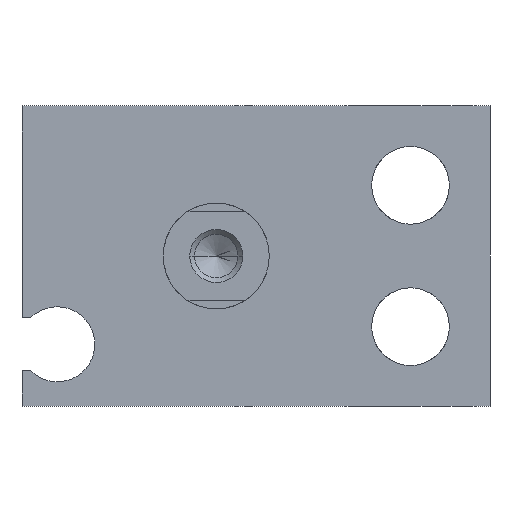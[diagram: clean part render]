
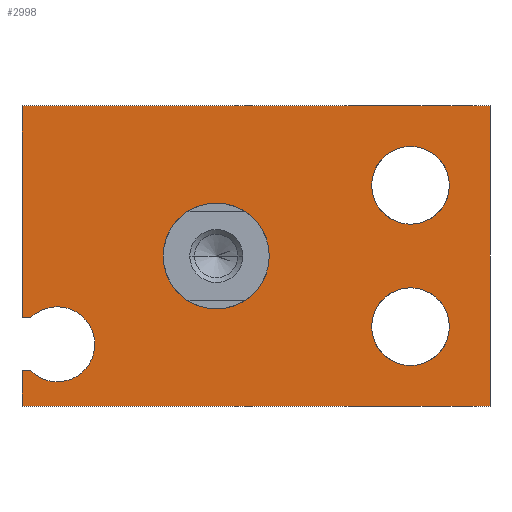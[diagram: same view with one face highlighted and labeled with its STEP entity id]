
A CAD part, left-side view. The second image highlights one B-rep face of the part: STEP entity #2998.
In plain terms, the highlighted planar face has unit normal (-1, 0, 0).
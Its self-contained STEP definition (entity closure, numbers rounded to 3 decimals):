
#64 = EDGE_CURVE ( 'NONE', #1457, #2333, #1753, .T. ) ;
#70 = DIRECTION ( 'NONE',  ( 0., 0., 1. ) ) ;
#78 = CARTESIAN_POINT ( 'NONE',  ( 0., 10.505, -6.5 ) ) ;
#116 = EDGE_CURVE ( 'NONE', #711, #2629, #1100, .T. ) ;
#127 = DIRECTION ( 'NONE',  ( -1., 0., 0. ) ) ;
#130 = DIRECTION ( 'NONE',  ( 0., 0., 1. ) ) ;
#134 = EDGE_LOOP ( 'NONE', ( #1428, #1081, #2905, #1048, #978, #2161, #2136, #2424, #1628, #2460 ) ) ;
#219 = LINE ( 'NONE', #2868, #1692 ) ;
#226 = EDGE_CURVE ( 'NONE', #734, #900, #593, .T. ) ;
#329 = VERTEX_POINT ( 'NONE', #1194 ) ;
#331 = VERTEX_POINT ( 'NONE', #672 ) ;
#339 = AXIS2_PLACEMENT_3D ( 'NONE', #962, #2977, #70 ) ;
#393 = DIRECTION ( 'NONE',  ( 0., -1., 0. ) ) ;
#395 = DIRECTION ( 'NONE',  ( 0., 0., 1. ) ) ;
#408 = EDGE_CURVE ( 'NONE', #1352, #329, #3015, .T. ) ;
#420 = CARTESIAN_POINT ( 'NONE',  ( 0., -15.5, -8.5 ) ) ;
#427 = DIRECTION ( 'NONE',  ( 0., 0., 1. ) ) ;
#460 = DIRECTION ( 'NONE',  ( 0., 0., 1. ) ) ;
#466 = DIRECTION ( 'NONE',  ( 0., 1., 0. ) ) ;
#544 = AXIS2_PLACEMENT_3D ( 'NONE', #2837, #667, #1629 ) ;
#546 = AXIS2_PLACEMENT_3D ( 'NONE', #1412, #2391, #1144 ) ;
#584 = DIRECTION ( 'NONE',  ( 0., 0., -1. ) ) ;
#593 = CIRCLE ( 'NONE', #1551, 2.125 ) ;
#595 = LINE ( 'NONE', #3054, #2652 ) ;
#599 = CARTESIAN_POINT ( 'NONE',  ( 0., -15.5, -8.5 ) ) ;
#665 = CARTESIAN_POINT ( 'NONE',  ( 0., 11., 8.5 ) ) ;
#667 = DIRECTION ( 'NONE',  ( -1., 0., 0. ) ) ;
#672 = CARTESIAN_POINT ( 'NONE',  ( 0., -11., 6.2 ) ) ;
#677 = EDGE_CURVE ( 'NONE', #331, #1529, #780, .T. ) ;
#692 = VECTOR ( 'NONE', #466, 1000. ) ;
#698 = DIRECTION ( 'NONE',  ( 0., -1., 0. ) ) ;
#711 = VERTEX_POINT ( 'NONE', #3041 ) ;
#734 = VERTEX_POINT ( 'NONE', #1079 ) ;
#751 = CARTESIAN_POINT ( 'NONE',  ( 0., 0., 3. ) ) ;
#780 = CIRCLE ( 'NONE', #1180, 2.2 ) ;
#807 = DIRECTION ( 'NONE',  ( 0., 0., -1. ) ) ;
#816 = CARTESIAN_POINT ( 'NONE',  ( 0., 11., -8.5 ) ) ;
#844 = VECTOR ( 'NONE', #1287, 1000. ) ;
#900 = VERTEX_POINT ( 'NONE', #2854 ) ;
#903 = FACE_OUTER_BOUND ( 'NONE', #134, .T. ) ;
#962 = CARTESIAN_POINT ( 'NONE',  ( 0., -11., -4. ) ) ;
#978 = ORIENTED_EDGE ( 'NONE', *, *, #1205, .T. ) ;
#1015 = CARTESIAN_POINT ( 'NONE',  ( 0., -11., -6.2 ) ) ;
#1026 = CARTESIAN_POINT ( 'NONE',  ( 0., 0., 0. ) ) ;
#1047 = VECTOR ( 'NONE', #584, 1000. ) ;
#1048 = ORIENTED_EDGE ( 'NONE', *, *, #1093, .T. ) ;
#1076 = CARTESIAN_POINT ( 'NONE',  ( 0., 0., -3. ) ) ;
#1079 = CARTESIAN_POINT ( 'NONE',  ( 0., 9., -2.875 ) ) ;
#1081 = ORIENTED_EDGE ( 'NONE', *, *, #2002, .T. ) ;
#1082 = AXIS2_PLACEMENT_3D ( 'NONE', #2273, #127, #1283 ) ;
#1093 = EDGE_CURVE ( 'NONE', #3004, #1515, #1372, .T. ) ;
#1100 = LINE ( 'NONE', #2771, #1047 ) ;
#1114 = CARTESIAN_POINT ( 'NONE',  ( 0., 9., -5. ) ) ;
#1144 = DIRECTION ( 'NONE',  ( 0., 0., 1. ) ) ;
#1178 = ORIENTED_EDGE ( 'NONE', *, *, #1530, .F. ) ;
#1180 = AXIS2_PLACEMENT_3D ( 'NONE', #1817, #2492, #395 ) ;
#1187 = VECTOR ( 'NONE', #2587, 1000. ) ;
#1194 = CARTESIAN_POINT ( 'NONE',  ( 0., 9., -7.125 ) ) ;
#1205 = EDGE_CURVE ( 'NONE', #1515, #900, #219, .T. ) ;
#1214 = EDGE_LOOP ( 'NONE', ( #3014, #1178 ) ) ;
#1283 = DIRECTION ( 'NONE',  ( 0., 0., 1. ) ) ;
#1287 = DIRECTION ( 'NONE',  ( 0., 1., 0. ) ) ;
#1297 = AXIS2_PLACEMENT_3D ( 'NONE', #1114, #2081, #427 ) ;
#1332 = EDGE_CURVE ( 'NONE', #2400, #3004, #1903, .T. ) ;
#1334 = DIRECTION ( 'NONE',  ( -1., 0., 0. ) ) ;
#1352 = VERTEX_POINT ( 'NONE', #78 ) ;
#1356 = FACE_BOUND ( 'NONE', #1214, .T. ) ;
#1358 = EDGE_CURVE ( 'NONE', #1352, #711, #1761, .T. ) ;
#1369 = VERTEX_POINT ( 'NONE', #420 ) ;
#1372 = LINE ( 'NONE', #665, #2858 ) ;
#1412 = CARTESIAN_POINT ( 'NONE',  ( 0., 9., -5. ) ) ;
#1423 = EDGE_CURVE ( 'NONE', #1529, #331, #2103, .T. ) ;
#1428 = ORIENTED_EDGE ( 'NONE', *, *, #2274, .T. ) ;
#1432 = DIRECTION ( 'NONE',  ( -1., 0., 0. ) ) ;
#1457 = VERTEX_POINT ( 'NONE', #751 ) ;
#1460 = EDGE_CURVE ( 'NONE', #2333, #1457, #2811, .T. ) ;
#1497 = DIRECTION ( 'NONE',  ( 1., 0., 0. ) ) ;
#1515 = VERTEX_POINT ( 'NONE', #2070 ) ;
#1529 = VERTEX_POINT ( 'NONE', #2409 ) ;
#1530 = EDGE_CURVE ( 'NONE', #3096, #2411, #2354, .T. ) ;
#1551 = AXIS2_PLACEMENT_3D ( 'NONE', #1615, #1334, #130 ) ;
#1576 = PLANE ( 'NONE',  #1297 ) ;
#1615 = CARTESIAN_POINT ( 'NONE',  ( 0., 9., -5. ) ) ;
#1620 = LINE ( 'NONE', #599, #1187 ) ;
#1628 = ORIENTED_EDGE ( 'NONE', *, *, #1358, .T. ) ;
#1629 = DIRECTION ( 'NONE',  ( 0., 0., 1. ) ) ;
#1662 = CARTESIAN_POINT ( 'NONE',  ( 0., -15.5, 8.5 ) ) ;
#1692 = VECTOR ( 'NONE', #698, 1000. ) ;
#1745 = CIRCLE ( 'NONE', #2298, 2.125 ) ;
#1753 = CIRCLE ( 'NONE', #3062, 3. ) ;
#1761 = LINE ( 'NONE', #2489, #844 ) ;
#1782 = ORIENTED_EDGE ( 'NONE', *, *, #1460, .T. ) ;
#1817 = CARTESIAN_POINT ( 'NONE',  ( 0., -11., 4. ) ) ;
#1903 = LINE ( 'NONE', #1662, #692 ) ;
#1912 = EDGE_CURVE ( 'NONE', #2411, #3096, #2600, .T. ) ;
#1958 = DIRECTION ( 'NONE',  ( 0., 0., -1. ) ) ;
#2002 = EDGE_CURVE ( 'NONE', #1369, #2400, #1620, .T. ) ;
#2059 = FACE_BOUND ( 'NONE', #2602, .T. ) ;
#2070 = CARTESIAN_POINT ( 'NONE',  ( 0., 11., -3.5 ) ) ;
#2081 = DIRECTION ( 'NONE',  ( -1., 0., 0. ) ) ;
#2103 = CIRCLE ( 'NONE', #544, 2.2 ) ;
#2136 = ORIENTED_EDGE ( 'NONE', *, *, #2785, .F. ) ;
#2145 = ORIENTED_EDGE ( 'NONE', *, *, #1423, .F. ) ;
#2156 = CARTESIAN_POINT ( 'NONE',  ( 0., -11., -1.8 ) ) ;
#2161 = ORIENTED_EDGE ( 'NONE', *, *, #226, .F. ) ;
#2250 = CARTESIAN_POINT ( 'NONE',  ( 0., 0., 0. ) ) ;
#2273 = CARTESIAN_POINT ( 'NONE',  ( 0., -11., -4. ) ) ;
#2274 = EDGE_CURVE ( 'NONE', #2629, #1369, #595, .T. ) ;
#2298 = AXIS2_PLACEMENT_3D ( 'NONE', #2627, #1432, #460 ) ;
#2319 = CARTESIAN_POINT ( 'NONE',  ( 0., 11., 8.5 ) ) ;
#2333 = VERTEX_POINT ( 'NONE', #1076 ) ;
#2354 = CIRCLE ( 'NONE', #1082, 2.2 ) ;
#2391 = DIRECTION ( 'NONE',  ( -1., 0., 0. ) ) ;
#2400 = VERTEX_POINT ( 'NONE', #3090 ) ;
#2409 = CARTESIAN_POINT ( 'NONE',  ( 0., -11., 1.8 ) ) ;
#2411 = VERTEX_POINT ( 'NONE', #2156 ) ;
#2424 = ORIENTED_EDGE ( 'NONE', *, *, #408, .F. ) ;
#2426 = DIRECTION ( 'NONE',  ( 0., 0., -1. ) ) ;
#2451 = EDGE_LOOP ( 'NONE', ( #1782, #2718 ) ) ;
#2460 = ORIENTED_EDGE ( 'NONE', *, *, #116, .T. ) ;
#2489 = CARTESIAN_POINT ( 'NONE',  ( 0., 10.505, -6.5 ) ) ;
#2492 = DIRECTION ( 'NONE',  ( -1., 0., 0. ) ) ;
#2587 = DIRECTION ( 'NONE',  ( 0., 0., 1. ) ) ;
#2600 = CIRCLE ( 'NONE', #339, 2.2 ) ;
#2602 = EDGE_LOOP ( 'NONE', ( #2793, #2145 ) ) ;
#2627 = CARTESIAN_POINT ( 'NONE',  ( 0., 9., -5. ) ) ;
#2629 = VERTEX_POINT ( 'NONE', #816 ) ;
#2652 = VECTOR ( 'NONE', #393, 1000. ) ;
#2718 = ORIENTED_EDGE ( 'NONE', *, *, #64, .T. ) ;
#2771 = CARTESIAN_POINT ( 'NONE',  ( 0., 11., -6.5 ) ) ;
#2785 = EDGE_CURVE ( 'NONE', #329, #734, #1745, .T. ) ;
#2793 = ORIENTED_EDGE ( 'NONE', *, *, #677, .F. ) ;
#2811 = CIRCLE ( 'NONE', #2865, 3. ) ;
#2837 = CARTESIAN_POINT ( 'NONE',  ( 0., -11., 4. ) ) ;
#2854 = CARTESIAN_POINT ( 'NONE',  ( 0., 10.505, -3.5 ) ) ;
#2858 = VECTOR ( 'NONE', #1958, 1000. ) ;
#2865 = AXIS2_PLACEMENT_3D ( 'NONE', #2250, #2974, #807 ) ;
#2868 = CARTESIAN_POINT ( 'NONE',  ( 0., 11., -3.5 ) ) ;
#2905 = ORIENTED_EDGE ( 'NONE', *, *, #1332, .T. ) ;
#2974 = DIRECTION ( 'NONE',  ( 1., 0., 0. ) ) ;
#2977 = DIRECTION ( 'NONE',  ( -1., 0., 0. ) ) ;
#2998 = ADVANCED_FACE ( 'NONE', ( #903, #3020, #1356, #2059 ), #1576, .T. ) ;
#3004 = VERTEX_POINT ( 'NONE', #2319 ) ;
#3014 = ORIENTED_EDGE ( 'NONE', *, *, #1912, .F. ) ;
#3015 = CIRCLE ( 'NONE', #546, 2.125 ) ;
#3020 = FACE_BOUND ( 'NONE', #2451, .T. ) ;
#3041 = CARTESIAN_POINT ( 'NONE',  ( 0., 11., -6.5 ) ) ;
#3054 = CARTESIAN_POINT ( 'NONE',  ( 0., 11., -8.5 ) ) ;
#3062 = AXIS2_PLACEMENT_3D ( 'NONE', #1026, #1497, #2426 ) ;
#3090 = CARTESIAN_POINT ( 'NONE',  ( 0., -15.5, 8.5 ) ) ;
#3096 = VERTEX_POINT ( 'NONE', #1015 ) ;
